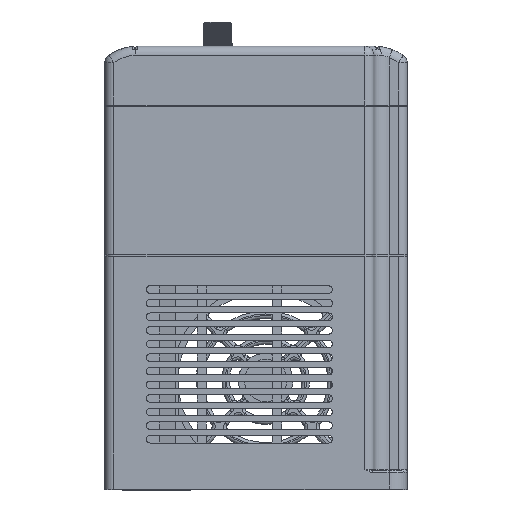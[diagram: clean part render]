
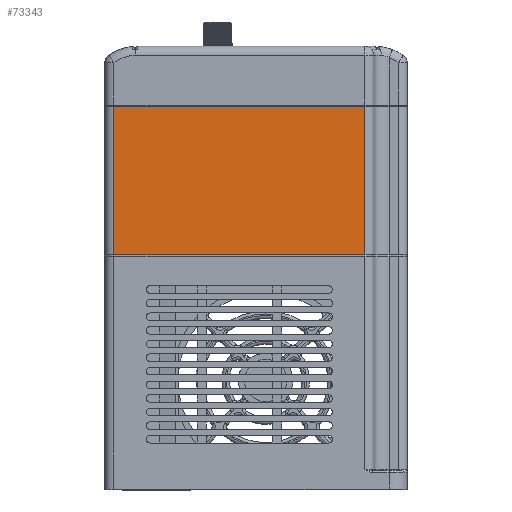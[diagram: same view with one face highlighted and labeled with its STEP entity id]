
A CAD part, top view. The second image highlights one B-rep face of the part: STEP entity #73343.
In plain terms, the highlighted planar face has unit normal (0, 0, 1) as drawn and (0, 0, -1) by its records, which use the part's own axes.
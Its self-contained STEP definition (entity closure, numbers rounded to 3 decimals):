
#44491=DIRECTION('',(1.,0.,0.));
#44492=VECTOR('',#44491,83.);
#44493=CARTESIAN_POINT('',(-36.,-1.5,-82.5));
#44494=LINE('',#44493,#44492);
#53543=DIRECTION('',(0.,-1.,0.));
#53544=VECTOR('',#53543,49.);
#53545=CARTESIAN_POINT('',(47.,47.5,-82.5));
#53546=LINE('',#53545,#53544);
#53552=DIRECTION('',(0.,-1.,0.));
#53553=VECTOR('',#53552,49.);
#53554=CARTESIAN_POINT('',(-36.,47.5,-82.5));
#53555=LINE('',#53554,#53553);
#53556=DIRECTION('',(1.,0.,0.));
#53557=VECTOR('',#53556,83.);
#53558=CARTESIAN_POINT('',(-36.,47.5,-82.5));
#53559=LINE('',#53558,#53557);
#57555=CARTESIAN_POINT('',(47.,47.5,-82.5));
#57557=VERTEX_POINT('',#57555);
#57826=CARTESIAN_POINT('',(-36.,47.5,-82.5));
#57828=VERTEX_POINT('',#57826);
#58971=CARTESIAN_POINT('',(-36.,-1.5,-82.5));
#58973=VERTEX_POINT('',#58971);
#58974=CARTESIAN_POINT('',(47.,-1.5,-82.5));
#58975=VERTEX_POINT('',#58974);
#73331=CARTESIAN_POINT('',(50.,0.,-82.5));
#73332=DIRECTION('',(0.,0.,-1.));
#73333=DIRECTION('',(-1.,0.,0.));
#73334=AXIS2_PLACEMENT_3D('',#73331,#73332,#73333);
#73335=PLANE('',#73334);
#73337=ORIENTED_EDGE('',*,*,#73336,.T.);
#73338=ORIENTED_EDGE('',*,*,#61815,.T.);
#73339=ORIENTED_EDGE('',*,*,#73323,.F.);
#73340=ORIENTED_EDGE('',*,*,#66963,.F.);
#73341=EDGE_LOOP('',(#73337,#73338,#73339,#73340));
#73342=FACE_OUTER_BOUND('',#73341,.F.);
#61815=EDGE_CURVE('',#58973,#58975,#44494,.T.);
#66963=EDGE_CURVE('',#57828,#57557,#53559,.T.);
#73323=EDGE_CURVE('',#57557,#58975,#53546,.T.);
#73336=EDGE_CURVE('',#57828,#58973,#53555,.T.);
#73343=ADVANCED_FACE('',(#73342),#73335,.T.);
